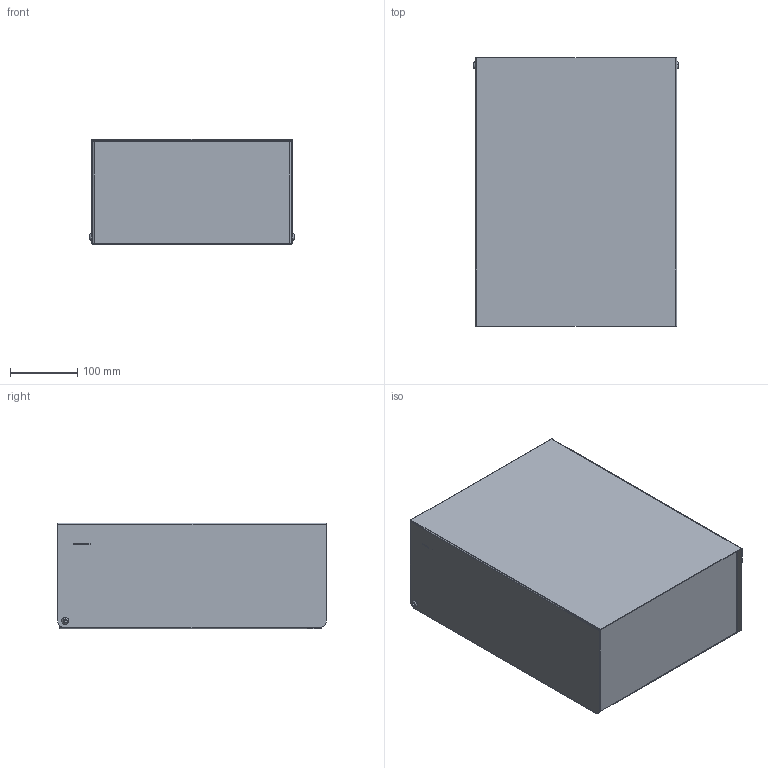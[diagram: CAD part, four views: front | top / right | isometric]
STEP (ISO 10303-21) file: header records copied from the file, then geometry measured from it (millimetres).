
FILE_DESCRIPTION (( 'STEP AP214' ), '1' );
FILE_NAME ('Kosz na œmieci DERBIN SMALL.STEP', '2023-07-10T08:14:12', ( '' ), ( '' ), 'SwSTEP 2.0', 'SolidWorks 2021', '' );
FILE_SCHEMA (( 'AUTOMOTIVE_DESIGN' ));
Length unit declared in the file: millimetre
Products named in the file (9): 11-004-0400-W-01-00; Kosz na œmieci DERBIN SMALL; screw_iso_7380-m6x10-12_9; 11-004-0400-W-02-01; 11-004-0400-W-01-01; 11-005-0600-W-01-01; nut_iso_10511-m6-05; 11-004-0400-W-02-00; 11-004-0400-W-00-01
Assembly tree (13 placements, depth 3):
  Kosz na œmieci DERBIN SMALL
    11-004-0400-W-01-00
      11-004-0400-W-01-01
      11-005-0600-W-01-01  x2
    11-004-0400-W-02-00
      11-004-0400-W-02-01
      11-005-0600-W-01-01  x2
    screw_iso_7380-m6x10-12_9  x2
    nut_iso_10511-m6-05  x2
    11-004-0400-W-00-01
Bounding box: 306.6 x 400 x 158 mm (x, y, z)
Volume: 456265.2 mm3; surface area: 900869.3 mm2
Topology: 11 solids, 11 shells, 284 faces, 678 edges, 416 vertices
Faces by surface type: plane 164, cylinder 74, cone 30, torus 12, bspline 4
Entity records: 6275 total; most frequent: CARTESIAN_POINT 1536, DIRECTION 943, ORIENTED_EDGE 880, EDGE_CURVE 440, AXIS2_PLACEMENT_3D 339, VECTOR 265, LINE 265, VERTEX_POINT 262
